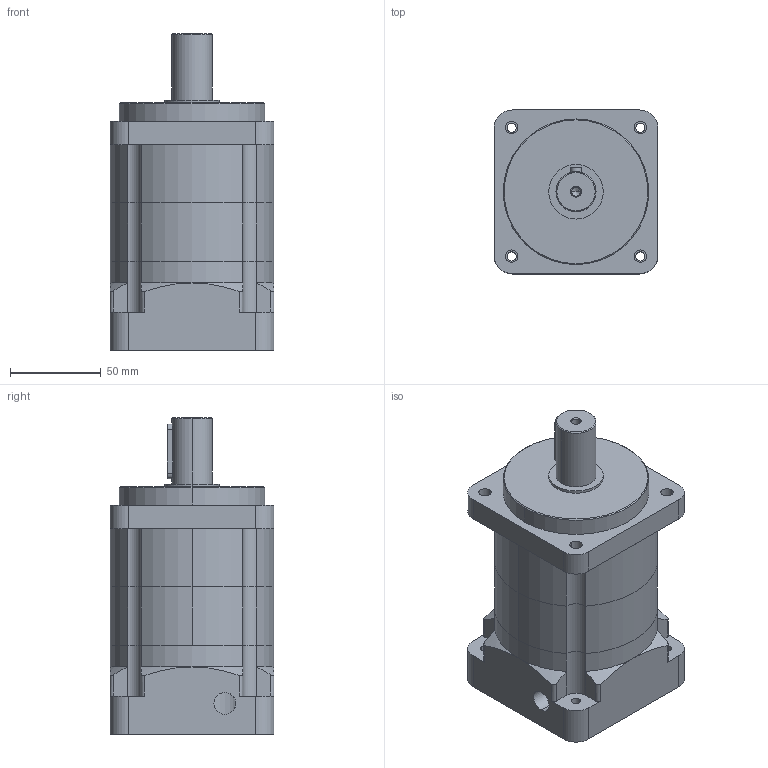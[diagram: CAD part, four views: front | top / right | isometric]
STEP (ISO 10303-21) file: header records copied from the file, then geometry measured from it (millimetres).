
FILE_DESCRIPTION (( 'STEP AP203' ), '1' );
FILE_NAME ('SL-090-025.STEP', '2010-05-19T16:04:12', ( 'render' ), ( '' ), 'SwSTEP 2.0', 'SolidWorks 2009', '' );
FILE_SCHEMA (( 'CONFIG_CONTROL_DESIGN' ));
Length unit declared in the file: millimetre
Products named in the file (1): SL-090-025
Bounding box: 90 x 90 x 174 mm (x, y, z)
Volume: 841556.8 mm3; surface area: 128945.5 mm2
Topology: 6 solids, 6 shells, 145 faces, 365 edges, 238 vertices
Faces by surface type: cylinder 85, plane 44, cone 8, sphere 8
Entity records: 4809 total; most frequent: CARTESIAN_POINT 1094, DIRECTION 812, ORIENTED_EDGE 726, EDGE_CURVE 363, AXIS2_PLACEMENT_3D 326, VERTEX_POINT 238, CIRCLE 180, EDGE_LOOP 173
